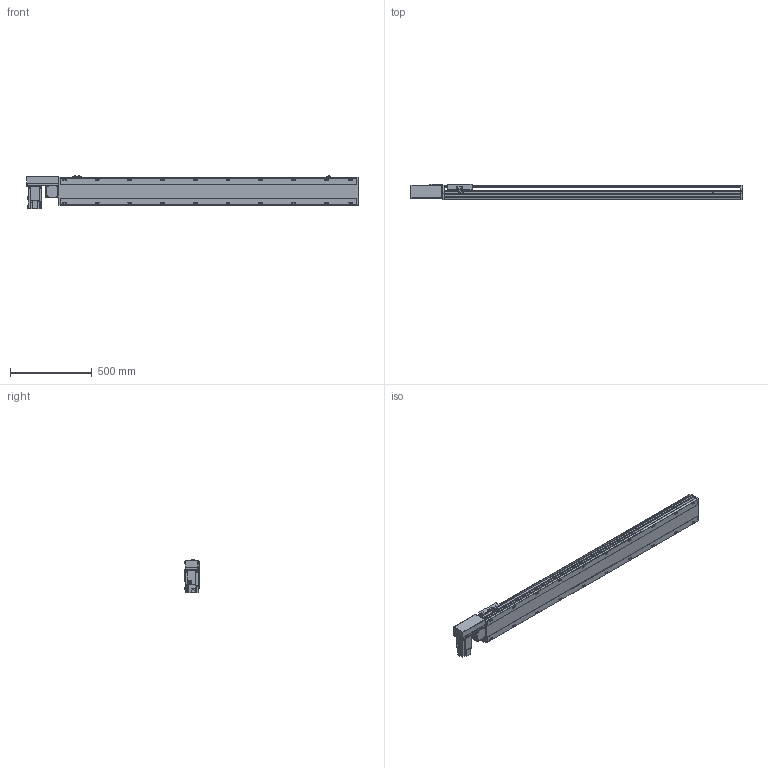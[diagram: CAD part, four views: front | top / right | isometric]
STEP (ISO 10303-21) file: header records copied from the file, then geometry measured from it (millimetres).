
FILE_DESCRIPTION( ( 'STEP AP214' ), '1' );
FILE_NAME( 'x:/temp/worker_4/temp/exporttempdir_2248_270_2XPvi/format_0/PBS170-P40-S1550-R-T75-C1-N(0).stp', '2022-06-07T07:30:48', ( 'License CC BY-ND 4.0' ), ( 'CADENAS' ), ' ', 'PARTsolutions', ' ' );
FILE_SCHEMA( ( 'AUTOMOTIVE_DESIGN { 1 0 10303 214 1 1 1 1 }' ) );
Length unit declared in the file: millimetre
Products named in the file (7): PBS170-P40-S1550-R-T75-C1-N(0); _PBS170-S1550()_body; _PBS170T-R_motors; _T75-p1; _PBS170_sliser; _PBS170_plant; _PBS170_sensor
Assembly tree (8 placements, depth 2):
  PBS170-P40-S1550-R-T75-C1-N(0)
    _PBS170-S1550()_body
    _PBS170T-R_motors
    _T75-p1
    _PBS170_sliser
    _PBS170_plant
    _PBS170_sensor  x3
Bounding box: 2028 x 97 x 205.3 mm (x, y, z)
Volume: 14909919.6 mm3; surface area: 1912760.8 mm2
Topology: 8 solids, 8 shells, 1114 faces, 2955 edges, 1926 vertices
Faces by surface type: plane 699, cylinder 355, cone 50, sphere 8, torus 2
Full cylindrical faces by diameter (mm): 3.242 x4, 4 x2, 4.4 x4, 4.5 x6, 4.917 x4, 6 x9, 6.647 x28, 7 x2, 7.5 x4, 8 x8, 8.5 x20, 10 x4, 10.5 x20, 11 x2, 30 x2, 40 x1, 70 x1
Entity records: 41024 total; most frequent: CARTESIAN_POINT 6557, DIRECTION 5440, ORIENTED_EDGE 5148, EDGE_CURVE 2574, AXIS2_PLACEMENT_3D 1897, VERTEX_POINT 1778, LINE 1646, VECTOR 1646
